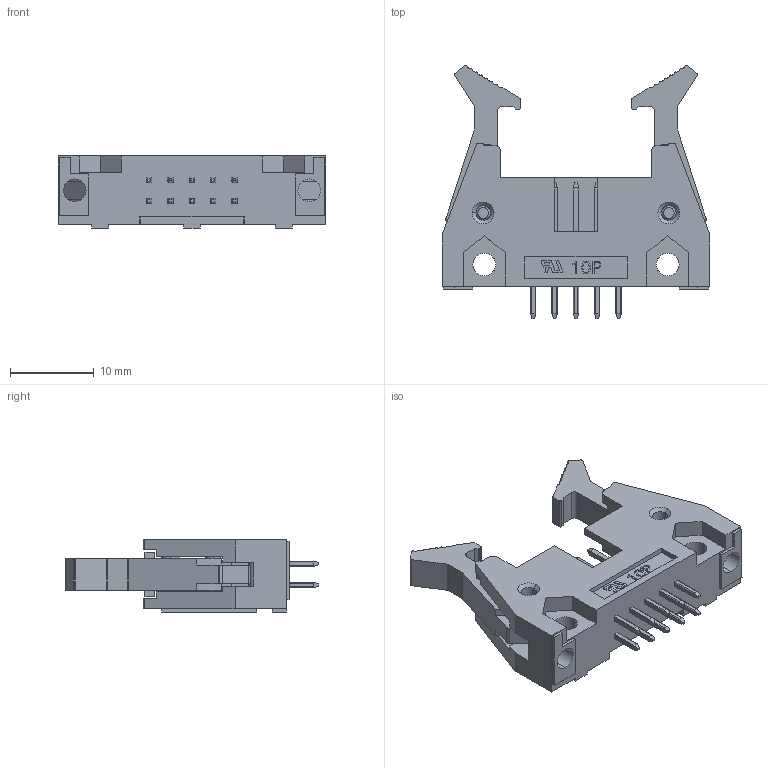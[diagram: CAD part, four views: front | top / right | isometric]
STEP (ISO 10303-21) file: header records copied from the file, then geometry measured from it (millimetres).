
FILE_DESCRIPTION (( 'STEP AP214' ), '1' );
FILE_NAME ('3011-10C00SB1A.STEP', '2020-06-26T03:49:27', ( '' ), ( '' ), 'SwSTEP 2.0', 'SolidWorks 2011', '' );
FILE_SCHEMA (( 'AUTOMOTIVE_DESIGN' ));
Length unit declared in the file: millimetre
Products named in the file (1): 3011-10C00SB1A
Bounding box: 31.88 x 30.14 x 8.6 mm (x, y, z)
Volume: 2547.7 mm3; surface area: 3413.1 mm2
Topology: 1 solids, 1 shells, 623 faces, 1697 edges, 1110 vertices
Faces by surface type: plane 475, cylinder 128, cone 12, bspline 8
Entity records: 26407 total; most frequent: CARTESIAN_POINT 3891, ORIENTED_EDGE 3394, DIRECTION 3088, EDGE_CURVE 1697, VECTOR 1326, LINE 1326, VERTEX_POINT 1110, AXIS2_PLACEMENT_3D 881
